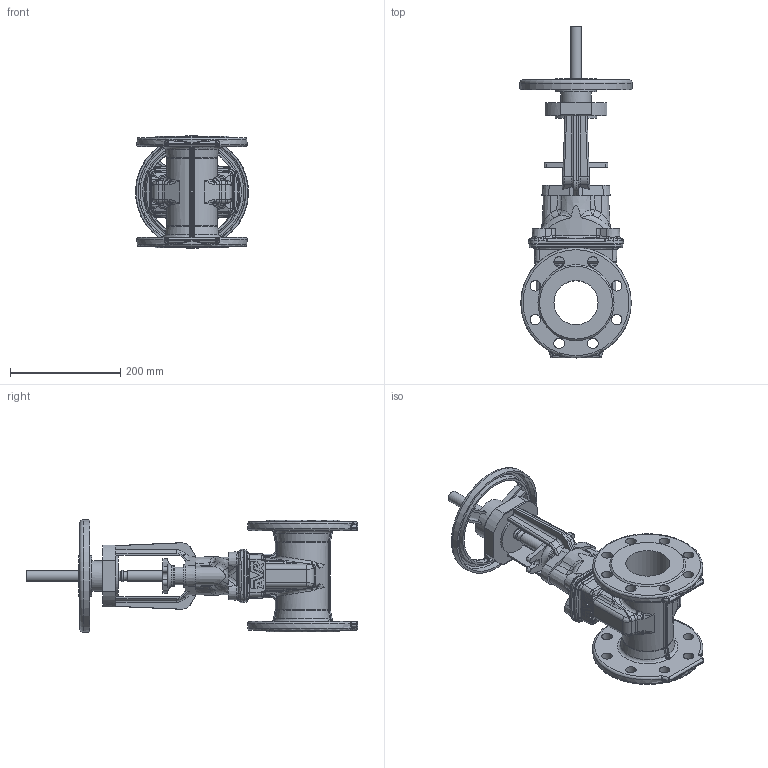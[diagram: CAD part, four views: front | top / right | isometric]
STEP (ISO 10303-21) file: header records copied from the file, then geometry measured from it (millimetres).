
FILE_DESCRIPTION (( 'STEP AP203' ), '1' );
FILE_NAME ('O_21_34_DN080_41XXXXX open_AA0.step', '2020-02-12T09:03:06', ( 'Windows User' ), ( 'AVK' ), 'SwSTEP 2.0', 'SolidWorks 2012', '' );
FILE_SCHEMA (( 'CONFIG_CONTROL_DESIGN' ));
Length unit declared in the file: millimetre
Products named in the file (1): O_21_34_DN080_41XXXXX open_AA0
Bounding box: 204.26 x 601.87 x 204.26 mm (x, y, z)
Volume: 3640393.9 mm3; surface area: 478300.5 mm2
Topology: 1 solids, 1 shells, 876 faces, 2204 edges, 1311 vertices
Faces by surface type: bspline 321, cylinder 224, plane 186, torus 75, cone 66, sphere 4
Full cylindrical faces by diameter (mm): 19 x16, 20 x4, 31.9 x1, 37 x1, 40 x1, 55 x1, 74 x1, 80 x1
Entity records: 37591 total; most frequent: CARTESIAN_POINT 19669, ORIENTED_EDGE 4198, DIRECTION 3118, EDGE_CURVE 2099, VERTEX_POINT 1286, AXIS2_PLACEMENT_3D 1257, EDGE_LOOP 981, FACE_OUTER_BOUND 912
